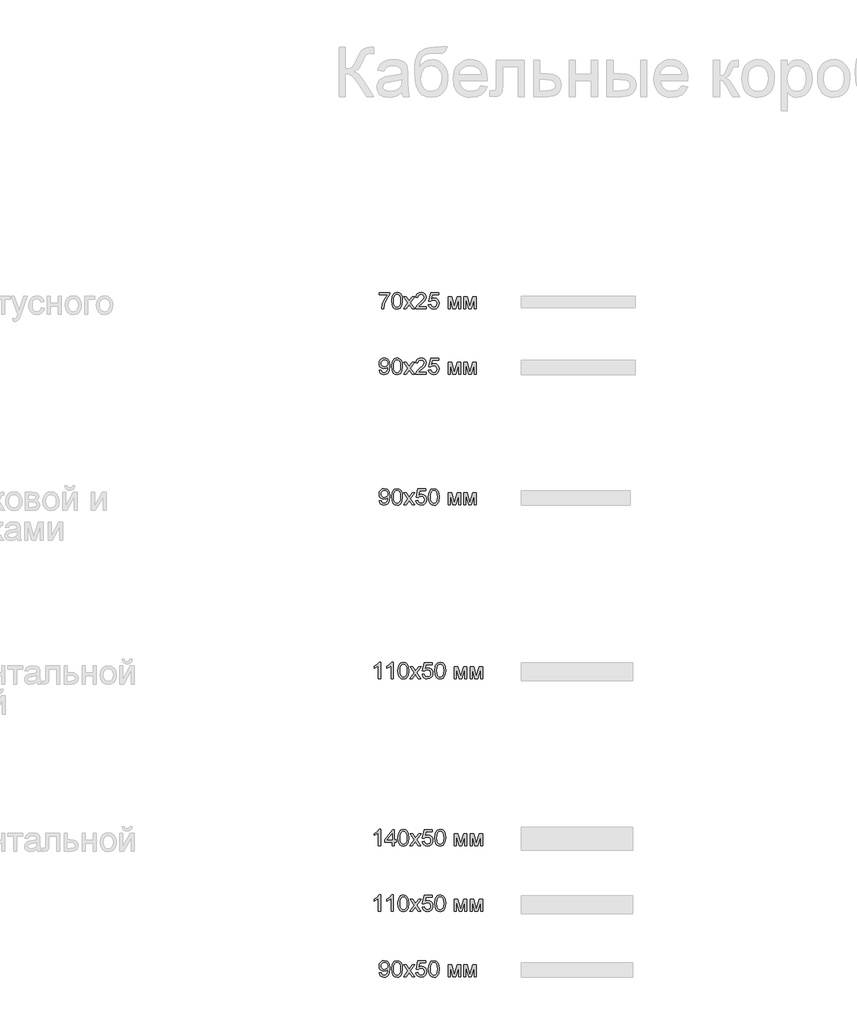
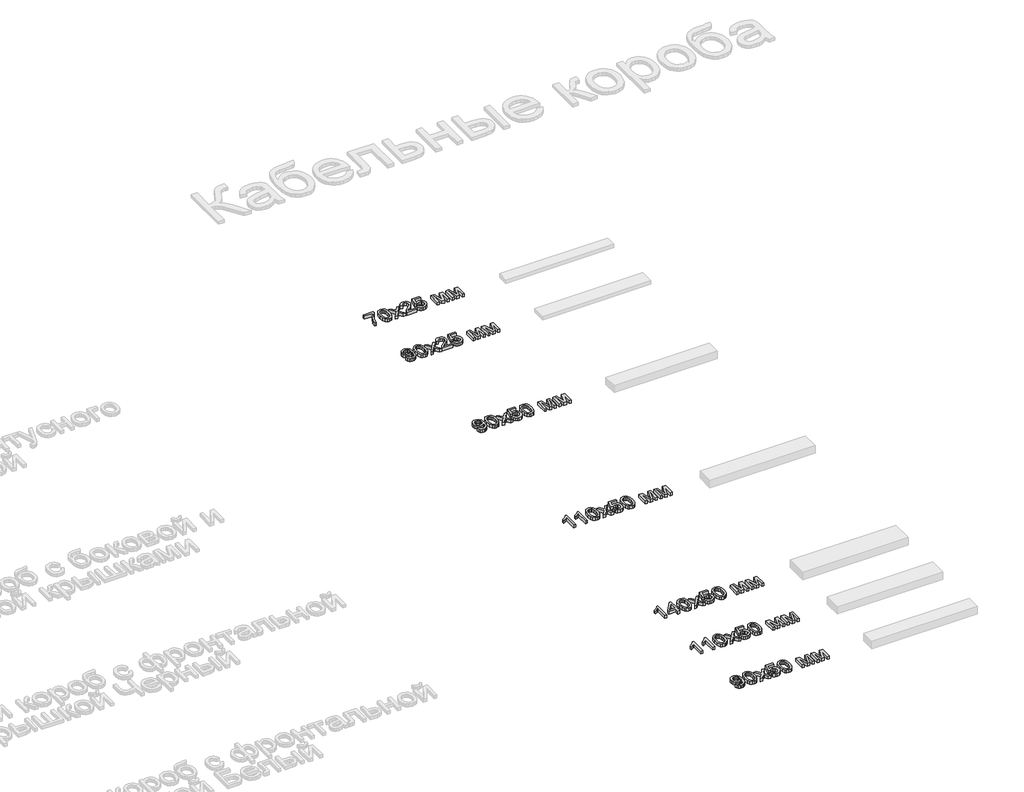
# One storey, part 30 of 48: 7 proxies.
"""IFC4 building model written with IfcOpenShell, lengths in millimetres."""

from ifc_helpers import new_model, si_unit, origin, origin_with_axes, place, context, project, spatial, polyline, outline, extrude, element, save

model = new_model("IFC4")

# Units and contexts
model_context = context("Model", 3, world=origin())
ifc_project = project(units=[si_unit("LENGTHUNIT", "METRE", prefix="MILLI")], contexts=[model_context])

# Site, building, storey
site = spatial("IfcSite", under=ifc_project)
building = spatial("IfcBuilding", under=site)
storey = spatial("IfcBuildingStorey", under=building, Name="Этаж 01", Elevation=0.0)

# Proxies
placement = place(None, origin())
element("IfcBuildingElementProxy", 1, Name="100 мм Arial", ObjectType="100 мм Arial", at=placement, inside=storey, context=model_context, shape_type="SweptSolid", body=[
    extrude(outline(polyline([(138.2334979, 4689.6161163), (138.2334979, 4702.1731551), (204.1579515, 4702.1731551), (204.1579515, 4692.019612), (185.4572834, 4665.0048109), (171.1466738, 4630.5833188), (166.4868352, 4603.2864748), (153.9297964, 4603.2864748), (158.9207288, 4631.6133884), (172.6182017, 4663.6313847), (191.6009127, 4689.6161163), (138.2334979, 4689.6161163)])), origin_with_axes(), (0.0, 0.0, 1.0), 20.0),
    extrude(outline(polyline([(215.1453604, 4652.7052895), (218.8364431, 4681.6085516), (229.7993265, 4698.2736059), (248.1075871, 4703.7427849), (262.773816, 4700.5054234), (272.9028336, 4691.1734834), (278.7889455, 4676.3110508), (281.0698139, 4652.7052895), (277.4155194, 4623.9246547), (266.4894242, 4607.2228121), (258.2580645, 4603.0933367), (248.1075871, 4601.7168449), (235.0600391, 4604.1080779), (225.1517506, 4611.2817768), (217.6469579, 4628.2717936), (215.1453604, 4652.7052895)]), holes=[polyline([(227.7023991, 4652.7298149), (229.1739271, 4632.9776175), (233.5885111, 4621.5456845), (240.1613361, 4616.0918339), (248.1075871, 4614.2738837), (256.0538382, 4616.0979653), (262.6266632, 4621.57021), (267.0412472, 4633.0082743), (268.5127751, 4652.7298149), (267.0902981, 4672.0374883), (262.822867, 4683.5583261), (256.2623047, 4689.2788912), (247.9604343, 4691.1857462), (240.1000224, 4689.5057517), (233.7847148, 4684.4657684), (229.2229781, 4672.2275607), (227.7023991, 4652.7298149)])]), origin_with_axes(), (0.0, 0.0, 1.0), 20.0),
    extrude(outline(polyline([(287.3483333, 4603.2864748), (314.1791935, 4640.3689799), (288.9179631, 4677.0590776), (304.0256504, 4677.0590776), (316.2148072, 4659.4007418), (321.9047154, 4651.0620832), (326.8343341, 4657.8801629), (340.7157481, 4677.0590776), (355.8234353, 4677.0590776), (329.2868807, 4640.3689799), (354.8424167, 4603.2864748), (339.7347294, 4603.2864748), (324.357262, 4625.5801237), (321.5368334, 4629.6513511), (302.4560206, 4603.2864748), (287.3483333, 4603.2864748)])), origin_with_axes(), (0.0, 0.0, 1.0), 20.0),
    extrude(outline(polyline([(427.0453896, 4615.8435136), (427.0453896, 4603.2864748), (361.1209361, 4603.2864748), (362.4698367, 4611.9439644), (370.0972567, 4625.2735554), (385.8180807, 4639.8294196), (407.4985929, 4660.7496424), (412.918721, 4674.9744129), (407.8051613, 4686.4891194), (394.4510448, 4691.1857462), (380.5328427, 4686.599484), (375.2476047, 4673.9198179), (362.6905659, 4675.4894477), (365.7347894, 4687.6356849), (372.3168115, 4696.5077724), (382.0932755, 4701.9340318), (394.720825, 4703.7427849), (407.4403449, 4701.7316967), (417.1984149, 4695.698432), (423.4064235, 4686.6853231), (425.4757598, 4675.7347024), (423.2439423, 4663.8275885), (415.8249887, 4651.5158044), (397.8355592, 4634.3111897), (383.3900595, 4622.2323975), (377.7246768, 4615.8435136), (427.0453896, 4615.8435136)])), origin_with_axes(), (0.0, 0.0, 1.0), 20.0),
    extrude(outline(polyline([(439.6024284, 4629.9701822), (452.1594671, 4631.539812), (458.4870375, 4618.6026285), (471.608162, 4614.2738837), (480.6090081, 4615.7791342), (487.3535113, 4620.2948857), (491.5657602, 4627.299972), (492.9698431, 4636.273227), (487.7091306, 4651.1847106), (481.1025831, 4655.2865948), (471.8043657, 4656.6538896), (460.7801686, 4654.4711231), (453.729097, 4648.8057403), (441.1720582, 4650.3753702), (452.1594671, 4702.1731551), (500.8179924, 4702.1731551), (500.8179924, 4689.6161163), (462.3130102, 4689.6161163), (456.9419331, 4661.9513903), (465.9121224, 4667.3960438), (475.3115074, 4669.2109283), (487.0438773, 4666.9607168), (496.7835532, 4660.2100822), (503.3410497, 4649.9216491), (505.5268819, 4637.058042), (503.5587132, 4624.5010032), (497.6542072, 4613.7588489), (486.3479672, 4604.7273459), (471.559111, 4601.7168449), (459.2258671, 4603.6512911), (449.4003522, 4609.4546296), (442.665046, 4618.45241), (439.6024284, 4629.9701822)])), origin_with_axes(), (0.0, 0.0, 1.0), 20.0),
    extrude(outline(polyline([(558.8942967, 4677.0590776), (580.5012325, 4677.0590776), (597.1540242, 4618.0017546), (615.1066655, 4677.0590776), (635.8061591, 4677.0590776), (635.8061591, 4603.2864748), (623.2491204, 4603.2864748), (623.2491204, 4662.6871543), (605.1983771, 4603.2864748), (588.7172637, 4603.2864748), (571.4513354, 4665.5321084), (571.4513354, 4603.2864748), (558.8942967, 4603.2864748), (558.8942967, 4677.0590776)])), origin_with_axes(), (0.0, 0.0, 1.0), 20.0),
    extrude(outline(polyline([(654.6417173, 4677.0590776), (676.2486531, 4677.0590776), (692.9014448, 4618.0017546), (710.8540861, 4677.0590776), (731.5535797, 4677.0590776), (731.5535797, 4603.2864748), (718.996541, 4603.2864748), (718.996541, 4662.6871543), (700.9457977, 4603.2864748), (684.4646844, 4603.2864748), (667.1987561, 4665.5321084), (667.1987561, 4603.2864748), (654.6417173, 4603.2864748), (654.6417173, 4677.0590776)])), origin_with_axes(), (0.0, 0.0, 1.0), 20.0),
])
element("IfcBuildingElementProxy", 2, Name="100 мм Arial", ObjectType="100 мм Arial", at=placement, inside=storey, context=model_context, shape_type="SweptSolid", body=[
    extrude(outline(polyline([(139.8031278, 4228.4005523), (152.3601665, 4229.9701822), (158.0010238, 4217.9894919), (168.6941271, 4214.2738837), (178.8599329, 4216.6651167), (185.751589, 4223.0540007), (189.8596046, 4233.9678332), (191.6744891, 4248.5359602), (191.6009127, 4250.9885068), (181.5577342, 4241.4726259), (167.7866849, 4237.8183314), (156.3363578, 4240.0501488), (146.8051484, 4246.7456012), (140.3764105, 4257.0892166), (138.2334979, 4270.2655234), (140.4806438, 4283.8771572), (147.2220813, 4294.5457351), (157.3480333, 4301.4435225), (169.7487222, 4303.7427849), (187.6400499, 4298.4943351), (199.951834, 4283.5338007), (204.1579515, 4255.4276162), (199.9640967, 4224.9301988), (194.7493694, 4214.939137), (187.4928971, 4207.6520078), (178.5073793, 4203.2006357), (168.1055159, 4201.7168449), (157.369493, 4203.4673501), (148.8039739, 4208.7188656), (142.8136288, 4217.1402976), (139.8031278, 4228.4005523)]), holes=[polyline([(191.6009127, 4270.559829), (190.2458807, 4279.0701658), (186.1807846, 4285.6184653), (179.8716084, 4289.793926), (171.7843359, 4291.1857462), (163.3966264, 4289.686627), (156.6766486, 4285.1892697), (152.2620647, 4278.3068107), (150.7905367, 4269.6523867), (152.1823569, 4261.8931423), (156.3578176, 4255.7341846), (162.9122484, 4251.7150738), (171.4409794, 4250.3753702), (185.9232672, 4255.7341846), (190.1815013, 4262.1200029), (191.6009127, 4270.559829)])]), origin_with_axes(), (0.0, 0.0, 1.0), 20.0),
    extrude(outline(polyline([(215.1453604, 4252.7052895), (218.8364431, 4281.6085516), (229.7993265, 4298.2736059), (248.1075871, 4303.7427849), (262.773816, 4300.5054234), (272.9028336, 4291.1734834), (278.7889455, 4276.3110508), (281.0698139, 4252.7052895), (277.4155194, 4223.9246547), (266.4894242, 4207.2228121), (258.2580645, 4203.0933367), (248.1075871, 4201.7168449), (235.0600391, 4204.1080779), (225.1517506, 4211.2817768), (217.6469579, 4228.2717936), (215.1453604, 4252.7052895)]), holes=[polyline([(227.7023991, 4252.7298149), (229.1739271, 4232.9776175), (233.5885111, 4221.5456845), (240.1613361, 4216.0918339), (248.1075871, 4214.2738837), (256.0538382, 4216.0979653), (262.6266632, 4221.57021), (267.0412472, 4233.0082743), (268.5127751, 4252.7298149), (267.0902981, 4272.0374883), (262.822867, 4283.5583261), (256.2623047, 4289.2788912), (247.9604343, 4291.1857462), (240.1000224, 4289.5057517), (233.7847148, 4284.4657684), (229.2229781, 4272.2275607), (227.7023991, 4252.7298149)])]), origin_with_axes(), (0.0, 0.0, 1.0), 20.0),
    extrude(outline(polyline([(287.3483333, 4203.2864748), (314.1791935, 4240.3689799), (288.9179631, 4277.0590776), (304.0256504, 4277.0590776), (316.2148072, 4259.4007418), (321.9047154, 4251.0620832), (326.8343341, 4257.8801629), (340.7157481, 4277.0590776), (355.8234353, 4277.0590776), (329.2868807, 4240.3689799), (354.8424167, 4203.2864748), (339.7347294, 4203.2864748), (324.357262, 4225.5801237), (321.5368334, 4229.6513511), (302.4560206, 4203.2864748), (287.3483333, 4203.2864748)])), origin_with_axes(), (0.0, 0.0, 1.0), 20.0),
    extrude(outline(polyline([(427.0453896, 4215.8435136), (427.0453896, 4203.2864748), (361.1209361, 4203.2864748), (362.4698367, 4211.9439644), (370.0972567, 4225.2735554), (385.8180807, 4239.8294196), (407.4985929, 4260.7496424), (412.918721, 4274.9744129), (407.8051613, 4286.4891194), (394.4510448, 4291.1857462), (380.5328427, 4286.599484), (375.2476047, 4273.9198179), (362.6905659, 4275.4894477), (365.7347894, 4287.6356849), (372.3168115, 4296.5077724), (382.0932755, 4301.9340318), (394.720825, 4303.7427849), (407.4403449, 4301.7316967), (417.1984149, 4295.698432), (423.4064235, 4286.6853231), (425.4757598, 4275.7347024), (423.2439423, 4263.8275885), (415.8249887, 4251.5158044), (397.8355592, 4234.3111897), (383.3900595, 4222.2323975), (377.7246768, 4215.8435136), (427.0453896, 4215.8435136)])), origin_with_axes(), (0.0, 0.0, 1.0), 20.0),
    extrude(outline(polyline([(439.6024284, 4229.9701822), (452.1594671, 4231.539812), (458.4870375, 4218.6026285), (471.608162, 4214.2738837), (480.6090081, 4215.7791342), (487.3535113, 4220.2948857), (491.5657602, 4227.299972), (492.9698431, 4236.273227), (487.7091306, 4251.1847106), (481.1025831, 4255.2865948), (471.8043657, 4256.6538896), (460.7801686, 4254.4711231), (453.729097, 4248.8057403), (441.1720582, 4250.3753702), (452.1594671, 4302.1731551), (500.8179924, 4302.1731551), (500.8179924, 4289.6161163), (462.3130102, 4289.6161163), (456.9419331, 4261.9513903), (465.9121224, 4267.3960438), (475.3115074, 4269.2109283), (487.0438773, 4266.9607168), (496.7835532, 4260.2100822), (503.3410497, 4249.9216491), (505.5268819, 4237.058042), (503.5587132, 4224.5010032), (497.6542072, 4213.7588489), (486.3479672, 4204.7273459), (471.559111, 4201.7168449), (459.2258671, 4203.6512911), (449.4003522, 4209.4546296), (442.665046, 4218.45241), (439.6024284, 4229.9701822)])), origin_with_axes(), (0.0, 0.0, 1.0), 20.0),
    extrude(outline(polyline([(558.8942967, 4277.0590776), (580.5012325, 4277.0590776), (597.1540242, 4218.0017546), (615.1066655, 4277.0590776), (635.8061591, 4277.0590776), (635.8061591, 4203.2864748), (623.2491204, 4203.2864748), (623.2491204, 4262.6871543), (605.1983771, 4203.2864748), (588.7172637, 4203.2864748), (571.4513354, 4265.5321084), (571.4513354, 4203.2864748), (558.8942967, 4203.2864748), (558.8942967, 4277.0590776)])), origin_with_axes(), (0.0, 0.0, 1.0), 20.0),
    extrude(outline(polyline([(654.6417173, 4277.0590776), (676.2486531, 4277.0590776), (692.9014448, 4218.0017546), (710.8540861, 4277.0590776), (731.5535797, 4277.0590776), (731.5535797, 4203.2864748), (718.996541, 4203.2864748), (718.996541, 4262.6871543), (700.9457977, 4203.2864748), (684.4646844, 4203.2864748), (667.1987561, 4265.5321084), (667.1987561, 4203.2864748), (654.6417173, 4203.2864748), (654.6417173, 4277.0590776)])), origin_with_axes(), (0.0, 0.0, 1.0), 20.0),
])
element("IfcBuildingElementProxy", 3, Name="100 мм Arial", ObjectType="100 мм Arial", at=placement, inside=storey, context=model_context, shape_type="SweptSolid", body=[
    extrude(outline(polyline([(139.8031278, 3431.851501), (152.3601665, 3433.4211308), (158.0010238, 3421.4404405), (168.6941271, 3417.7248324), (178.8599329, 3420.1160654), (185.751589, 3426.5049493), (189.8596046, 3437.4187819), (191.6744891, 3451.9869089), (191.6009127, 3454.4394555), (181.5577342, 3444.9235746), (167.7866849, 3441.2692801), (156.3363578, 3443.5010975), (146.8051484, 3450.1965498), (140.3764105, 3460.5401653), (138.2334979, 3473.7164721), (140.4806438, 3487.3281059), (147.2220813, 3497.9966837), (157.3480333, 3504.8944711), (169.7487222, 3507.1937336), (187.6400499, 3501.9452838), (199.951834, 3486.9847493), (204.1579515, 3458.8785649), (199.9640967, 3428.3811475), (194.7493694, 3418.3900857), (187.4928971, 3411.1029565), (178.5073793, 3406.6515843), (168.1055159, 3405.1677936), (157.369493, 3406.9182988), (148.8039739, 3412.1698143), (142.8136288, 3420.5912463), (139.8031278, 3431.851501)]), holes=[polyline([(191.6009127, 3474.0107776), (190.2458807, 3482.5211145), (186.1807846, 3489.069414), (179.8716084, 3493.2448746), (171.7843359, 3494.6366948), (163.3966264, 3493.1375757), (156.6766486, 3488.6402183), (152.2620647, 3481.7577593), (150.7905367, 3473.1033354), (152.1823569, 3465.344091), (156.3578176, 3459.1851332), (162.9122484, 3455.1660224), (171.4409794, 3453.8263188), (185.9232672, 3459.1851332), (190.1815013, 3465.5709515), (191.6009127, 3474.0107776)])]), origin_with_axes(), (0.0, 0.0, 1.0), 20.0),
    extrude(outline(polyline([(215.1453604, 3456.1562381), (218.8364431, 3485.0595002), (229.7993265, 3501.7245546), (248.1075871, 3507.1937336), (262.773816, 3503.9563721), (272.9028336, 3494.6244321), (278.7889455, 3479.7619995), (281.0698139, 3456.1562381), (277.4155194, 3427.3756034), (266.4894242, 3410.6737608), (258.2580645, 3406.5442854), (248.1075871, 3405.1677936), (235.0600391, 3407.5590266), (225.1517506, 3414.7327255), (217.6469579, 3431.7227423), (215.1453604, 3456.1562381)]), holes=[polyline([(227.7023991, 3456.1807636), (229.1739271, 3436.4285662), (233.5885111, 3424.9966332), (240.1613361, 3419.5427826), (248.1075871, 3417.7248324), (256.0538382, 3419.5489139), (262.6266632, 3425.0211586), (267.0412472, 3436.459223), (268.5127751, 3456.1807636), (267.0902981, 3475.488437), (262.822867, 3487.0092748), (256.2623047, 3492.7298398), (247.9604343, 3494.6366948), (240.1000224, 3492.9567004), (233.7847148, 3487.9167171), (229.2229781, 3475.6785094), (227.7023991, 3456.1807636)])]), origin_with_axes(), (0.0, 0.0, 1.0), 20.0),
    extrude(outline(polyline([(287.3483333, 3406.7374235), (314.1791935, 3443.8199286), (288.9179631, 3480.5100262), (304.0256504, 3480.5100262), (316.2148072, 3462.8516905), (321.9047154, 3454.5130319), (326.8343341, 3461.3311115), (340.7157481, 3480.5100262), (355.8234353, 3480.5100262), (329.2868807, 3443.8199286), (354.8424167, 3406.7374235), (339.7347294, 3406.7374235), (324.357262, 3429.0310724), (321.5368334, 3433.1022998), (302.4560206, 3406.7374235), (287.3483333, 3406.7374235)])), origin_with_axes(), (0.0, 0.0, 1.0), 20.0),
    extrude(outline(polyline([(362.6905659, 3433.4211308), (375.2476047, 3434.9907607), (381.575175, 3422.0535772), (394.6962995, 3417.7248324), (403.6971456, 3419.2300829), (410.4416489, 3423.7458344), (414.6538977, 3430.7509207), (416.0579807, 3439.7241757), (410.7972681, 3454.6356592), (404.1907207, 3458.7375435), (394.8925032, 3460.1048382), (383.8683061, 3457.9220717), (376.8172345, 3452.256689), (364.2601958, 3453.8263188), (375.2476047, 3505.6241038), (423.9061299, 3505.6241038), (423.9061299, 3493.067065), (385.4011477, 3493.067065), (380.0300706, 3465.402339), (389.0002599, 3470.8469925), (398.3996449, 3472.661877), (410.1320149, 3470.4116655), (419.8716907, 3463.6610308), (426.4291873, 3453.3725977), (428.6150194, 3440.5089906), (426.6468508, 3427.9519519), (420.7423448, 3417.2097976), (409.4361048, 3408.1782946), (394.6472486, 3405.1677936), (382.3140047, 3407.1022398), (372.4884897, 3412.9055782), (365.7531835, 3421.9033587), (362.6905659, 3433.4211308)])), origin_with_axes(), (0.0, 0.0, 1.0), 20.0),
    extrude(outline(polyline([(439.6024284, 3456.1562381), (443.2935111, 3485.0595002), (454.2563945, 3501.7245546), (472.5646551, 3507.1937336), (487.230884, 3503.9563721), (497.3599016, 3494.6244321), (503.2460135, 3479.7619995), (505.5268819, 3456.1562381), (501.8725874, 3427.3756034), (490.9464922, 3410.6737608), (482.7151325, 3406.5442854), (472.5646551, 3405.1677936), (459.517107, 3407.5590266), (449.6088186, 3414.7327255), (442.1040259, 3431.7227423), (439.6024284, 3456.1562381)]), holes=[polyline([(452.1594671, 3456.1807636), (453.6309951, 3436.4285662), (458.0455791, 3424.9966332), (464.618404, 3419.5427826), (472.5646551, 3417.7248324), (480.5109062, 3419.5489139), (487.0837312, 3425.0211586), (491.4983152, 3436.459223), (492.9698431, 3456.1807636), (491.5473661, 3475.488437), (487.2799349, 3487.0092748), (480.7193727, 3492.7298398), (472.4175023, 3494.6366948), (464.5570904, 3492.9567004), (458.2417828, 3487.9167171), (453.6800461, 3475.6785094), (452.1594671, 3456.1807636)])]), origin_with_axes(), (0.0, 0.0, 1.0), 20.0),
    extrude(outline(polyline([(558.8942967, 3480.5100262), (580.5012325, 3480.5100262), (597.1540242, 3421.4527033), (615.1066655, 3480.5100262), (635.8061591, 3480.5100262), (635.8061591, 3406.7374235), (623.2491204, 3406.7374235), (623.2491204, 3466.1381029), (605.1983771, 3406.7374235), (588.7172637, 3406.7374235), (571.4513354, 3468.983057), (571.4513354, 3406.7374235), (558.8942967, 3406.7374235), (558.8942967, 3480.5100262)])), origin_with_axes(), (0.0, 0.0, 1.0), 20.0),
    extrude(outline(polyline([(654.6417173, 3480.5100262), (676.2486531, 3480.5100262), (692.9014448, 3421.4527033), (710.8540861, 3480.5100262), (731.5535797, 3480.5100262), (731.5535797, 3406.7374235), (718.996541, 3406.7374235), (718.996541, 3466.1381029), (700.9457977, 3406.7374235), (684.4646844, 3406.7374235), (667.1987561, 3468.983057), (667.1987561, 3406.7374235), (654.6417173, 3406.7374235), (654.6417173, 3480.5100262)])), origin_with_axes(), (0.0, 0.0, 1.0), 20.0),
])
element("IfcBuildingElementProxy", 4, Name="100 мм Arial", ObjectType="100 мм Arial", at=placement, inside=storey, context=model_context, shape_type="SweptSolid", body=[
    extrude(outline(polyline([(146.8664621, 2346.7374235), (134.3094233, 2346.7374235), (134.3094233, 2425.022712), (122.4145721, 2416.5491634), (109.1953458, 2410.2093304), (109.1953458, 2422.0796561), (127.6017083, 2433.8273545), (138.7730582, 2447.1937336), (146.8664621, 2447.1937336), (146.8664621, 2346.7374235)])), origin_with_axes(), (0.0, 0.0, 1.0), 20.0),
    extrude(outline(polyline([(223.7783245, 2346.7374235), (211.2212858, 2346.7374235), (211.2212858, 2425.022712), (199.3264346, 2416.5491634), (186.1072082, 2410.2093304), (186.1072082, 2422.0796561), (204.5135707, 2433.8273545), (215.6849206, 2447.1937336), (223.7783245, 2447.1937336), (223.7783245, 2346.7374235)])), origin_with_axes(), (0.0, 0.0, 1.0), 20.0),
    extrude(outline(polyline([(253.6012916, 2396.1562381), (257.2923743, 2425.0595002), (268.2552577, 2441.7245546), (286.5635184, 2447.1937336), (301.2297473, 2443.9563721), (311.3587649, 2434.6244321), (317.2448768, 2419.7619995), (319.5257451, 2396.1562381), (315.8714507, 2367.3756034), (304.9453554, 2350.6737608), (296.7139958, 2346.5442854), (286.5635184, 2345.1677936), (273.5159703, 2347.5590266), (263.6076819, 2354.7327255), (256.1028892, 2371.7227423), (253.6012916, 2396.1562381)]), holes=[polyline([(266.1583304, 2396.1807636), (267.6298584, 2376.4285662), (272.0444423, 2364.9966332), (278.6172673, 2359.5427826), (286.5635184, 2357.7248324), (294.5097695, 2359.5489139), (301.0825945, 2365.0211586), (305.4971784, 2376.459223), (306.9687064, 2396.1807636), (305.5462293, 2415.488437), (301.2787982, 2427.0092748), (294.7182359, 2432.7298398), (286.4163656, 2434.6366948), (278.5559536, 2432.9567004), (272.240646, 2427.9167171), (267.6789093, 2415.6785094), (266.1583304, 2396.1807636)])]), origin_with_axes(), (0.0, 0.0, 1.0), 20.0),
    extrude(outline(polyline([(325.8042645, 2346.7374235), (352.6351247, 2383.8199286), (327.3738944, 2420.5100262), (342.4815816, 2420.5100262), (354.6707384, 2402.8516905), (360.3606466, 2394.5130319), (365.2902653, 2401.3311115), (379.1716793, 2420.5100262), (394.2793666, 2420.5100262), (367.742812, 2383.8199286), (393.2983479, 2346.7374235), (378.1906606, 2346.7374235), (362.8131932, 2369.0310724), (359.9927646, 2373.1022998), (340.9119518, 2346.7374235), (325.8042645, 2346.7374235)])), origin_with_axes(), (0.0, 0.0, 1.0), 20.0),
    extrude(outline(polyline([(401.1464971, 2373.4211308), (413.7035359, 2374.9907607), (420.0311062, 2362.0535772), (433.1522307, 2357.7248324), (442.1530769, 2359.2300829), (448.8975801, 2363.7458344), (453.109829, 2370.7509207), (454.5139119, 2379.7241757), (449.2531994, 2394.6356592), (442.6466519, 2398.7375435), (433.3484345, 2400.1048382), (422.3242373, 2397.9220717), (415.2731658, 2392.256689), (402.716127, 2393.8263188), (413.7035359, 2445.6241038), (462.3620611, 2445.6241038), (462.3620611, 2433.067065), (423.857079, 2433.067065), (418.4860018, 2405.402339), (427.4561912, 2410.8469925), (436.8555761, 2412.661877), (448.5879461, 2410.4116655), (458.3276219, 2403.6610308), (464.8851185, 2393.3725977), (467.0709507, 2380.5089906), (465.102782, 2367.9519519), (459.198276, 2357.2097976), (447.892036, 2348.1782946), (433.1031798, 2345.1677936), (420.7699359, 2347.1022398), (410.9444209, 2352.9055782), (404.2091148, 2361.9033587), (401.1464971, 2373.4211308)])), origin_with_axes(), (0.0, 0.0, 1.0), 20.0),
    extrude(outline(polyline([(478.0583596, 2396.1562381), (481.7494423, 2425.0595002), (492.7123257, 2441.7245546), (511.0205864, 2447.1937336), (525.6868152, 2443.9563721), (535.8158328, 2434.6244321), (541.7019448, 2419.7619995), (543.9828131, 2396.1562381), (540.3285186, 2367.3756034), (529.4024234, 2350.6737608), (521.1710638, 2346.5442854), (511.0205864, 2345.1677936), (497.9730383, 2347.5590266), (488.0647499, 2354.7327255), (480.5599572, 2371.7227423), (478.0583596, 2396.1562381)]), holes=[polyline([(490.6153984, 2396.1807636), (492.0869263, 2376.4285662), (496.5015103, 2364.9966332), (503.0743353, 2359.5427826), (511.0205864, 2357.7248324), (518.9668375, 2359.5489139), (525.5396624, 2365.0211586), (529.9542464, 2376.459223), (531.4257744, 2396.1807636), (530.0032973, 2415.488437), (525.7358662, 2427.0092748), (519.1753039, 2432.7298398), (510.8734336, 2434.6366948), (503.0130216, 2432.9567004), (496.697714, 2427.9167171), (492.1359773, 2415.6785094), (490.6153984, 2396.1807636)])]), origin_with_axes(), (0.0, 0.0, 1.0), 20.0),
    extrude(outline(polyline([(597.3502279, 2420.5100262), (618.9571638, 2420.5100262), (635.6099554, 2361.4527033), (653.5625968, 2420.5100262), (674.2620904, 2420.5100262), (674.2620904, 2346.7374235), (661.7050516, 2346.7374235), (661.7050516, 2406.1381029), (643.6543084, 2346.7374235), (627.173195, 2346.7374235), (609.9072667, 2408.983057), (609.9072667, 2346.7374235), (597.3502279, 2346.7374235), (597.3502279, 2420.5100262)])), origin_with_axes(), (0.0, 0.0, 1.0), 20.0),
    extrude(outline(polyline([(693.0976485, 2420.5100262), (714.7045844, 2420.5100262), (731.357376, 2361.4527033), (749.3100174, 2420.5100262), (770.009511, 2420.5100262), (770.009511, 2346.7374235), (757.4524722, 2346.7374235), (757.4524722, 2406.1381029), (739.401729, 2346.7374235), (722.9206156, 2346.7374235), (705.6546873, 2408.983057), (705.6546873, 2346.7374235), (693.0976485, 2346.7374235), (693.0976485, 2420.5100262)])), origin_with_axes(), (0.0, 0.0, 1.0), 20.0),
])
element("IfcBuildingElementProxy", 5, Name="100 мм Arial", ObjectType="100 мм Arial", at=placement, inside=storey, context=model_context, shape_type="SweptSolid", body=[
    extrude(outline(polyline([(146.8664621, 1326.7374235), (134.3094233, 1326.7374235), (134.3094233, 1405.022712), (122.4145721, 1396.5491634), (109.1953458, 1390.2093304), (109.1953458, 1402.0796561), (127.6017083, 1413.8273545), (138.7730582, 1427.1937336), (146.8664621, 1427.1937336), (146.8664621, 1326.7374235)])), origin_with_axes(), (0.0, 0.0, 1.0), 20.0),
    extrude(outline(polyline([(217.4998051, 1326.7374235), (217.4998051, 1350.2818712), (171.9805396, 1350.2818712), (171.9805396, 1362.8389099), (220.6390648, 1425.6241038), (230.0568439, 1425.6241038), (230.0568439, 1362.8389099), (242.6138827, 1362.8389099), (242.6138827, 1350.2818712), (230.0568439, 1350.2818712), (230.0568439, 1326.7374235), (217.4998051, 1326.7374235)]), holes=[polyline([(217.4998051, 1362.8389099), (217.4998051, 1401.6381977), (187.4315834, 1362.8389099), (217.4998051, 1362.8389099)])]), origin_with_axes(), (0.0, 0.0, 1.0), 20.0),
    extrude(outline(polyline([(253.6012916, 1376.1562381), (257.2923743, 1405.0595002), (268.2552577, 1421.7245546), (286.5635184, 1427.1937336), (301.2297473, 1423.9563721), (311.3587649, 1414.6244321), (317.2448768, 1399.7619995), (319.5257451, 1376.1562381), (315.8714507, 1347.3756034), (304.9453554, 1330.6737608), (296.7139958, 1326.5442854), (286.5635184, 1325.1677936), (273.5159703, 1327.5590266), (263.6076819, 1334.7327255), (256.1028892, 1351.7227423), (253.6012916, 1376.1562381)]), holes=[polyline([(266.1583304, 1376.1807636), (267.6298584, 1356.4285662), (272.0444423, 1344.9966332), (278.6172673, 1339.5427826), (286.5635184, 1337.7248324), (294.5097695, 1339.5489139), (301.0825945, 1345.0211586), (305.4971784, 1356.459223), (306.9687064, 1376.1807636), (305.5462293, 1395.488437), (301.2787982, 1407.0092748), (294.7182359, 1412.7298398), (286.4163656, 1414.6366948), (278.5559536, 1412.9567004), (272.240646, 1407.9167171), (267.6789093, 1395.6785094), (266.1583304, 1376.1807636)])]), origin_with_axes(), (0.0, 0.0, 1.0), 20.0),
    extrude(outline(polyline([(325.8042645, 1326.7374235), (352.6351247, 1363.8199286), (327.3738944, 1400.5100262), (342.4815816, 1400.5100262), (354.6707384, 1382.8516905), (360.3606466, 1374.5130319), (365.2902653, 1381.3311115), (379.1716793, 1400.5100262), (394.2793666, 1400.5100262), (367.742812, 1363.8199286), (393.2983479, 1326.7374235), (378.1906606, 1326.7374235), (362.8131932, 1349.0310724), (359.9927646, 1353.1022998), (340.9119518, 1326.7374235), (325.8042645, 1326.7374235)])), origin_with_axes(), (0.0, 0.0, 1.0), 20.0),
    extrude(outline(polyline([(401.1464971, 1353.4211308), (413.7035359, 1354.9907607), (420.0311062, 1342.0535772), (433.1522307, 1337.7248324), (442.1530769, 1339.2300829), (448.8975801, 1343.7458344), (453.109829, 1350.7509207), (454.5139119, 1359.7241757), (449.2531994, 1374.6356592), (442.6466519, 1378.7375435), (433.3484345, 1380.1048382), (422.3242373, 1377.9220717), (415.2731658, 1372.256689), (402.716127, 1373.8263188), (413.7035359, 1425.6241038), (462.3620611, 1425.6241038), (462.3620611, 1413.067065), (423.857079, 1413.067065), (418.4860018, 1385.402339), (427.4561912, 1390.8469925), (436.8555761, 1392.661877), (448.5879461, 1390.4116655), (458.3276219, 1383.6610308), (464.8851185, 1373.3725977), (467.0709507, 1360.5089906), (465.102782, 1347.9519519), (459.198276, 1337.2097976), (447.892036, 1328.1782946), (433.1031798, 1325.1677936), (420.7699359, 1327.1022398), (410.9444209, 1332.9055782), (404.2091148, 1341.9033587), (401.1464971, 1353.4211308)])), origin_with_axes(), (0.0, 0.0, 1.0), 20.0),
    extrude(outline(polyline([(478.0583596, 1376.1562381), (481.7494423, 1405.0595002), (492.7123257, 1421.7245546), (511.0205864, 1427.1937336), (525.6868152, 1423.9563721), (535.8158328, 1414.6244321), (541.7019448, 1399.7619995), (543.9828131, 1376.1562381), (540.3285186, 1347.3756034), (529.4024234, 1330.6737608), (521.1710638, 1326.5442854), (511.0205864, 1325.1677936), (497.9730383, 1327.5590266), (488.0647499, 1334.7327255), (480.5599572, 1351.7227423), (478.0583596, 1376.1562381)]), holes=[polyline([(490.6153984, 1376.1807636), (492.0869263, 1356.4285662), (496.5015103, 1344.9966332), (503.0743353, 1339.5427826), (511.0205864, 1337.7248324), (518.9668375, 1339.5489139), (525.5396624, 1345.0211586), (529.9542464, 1356.459223), (531.4257744, 1376.1807636), (530.0032973, 1395.488437), (525.7358662, 1407.0092748), (519.1753039, 1412.7298398), (510.8734336, 1414.6366948), (503.0130216, 1412.9567004), (496.697714, 1407.9167171), (492.1359773, 1395.6785094), (490.6153984, 1376.1807636)])]), origin_with_axes(), (0.0, 0.0, 1.0), 20.0),
    extrude(outline(polyline([(597.3502279, 1400.5100262), (618.9571638, 1400.5100262), (635.6099554, 1341.4527033), (653.5625968, 1400.5100262), (674.2620904, 1400.5100262), (674.2620904, 1326.7374235), (661.7050516, 1326.7374235), (661.7050516, 1386.1381029), (643.6543084, 1326.7374235), (627.173195, 1326.7374235), (609.9072667, 1388.983057), (609.9072667, 1326.7374235), (597.3502279, 1326.7374235), (597.3502279, 1400.5100262)])), origin_with_axes(), (0.0, 0.0, 1.0), 20.0),
    extrude(outline(polyline([(693.0976485, 1400.5100262), (714.7045844, 1400.5100262), (731.357376, 1341.4527033), (749.3100174, 1400.5100262), (770.009511, 1400.5100262), (770.009511, 1326.7374235), (757.4524722, 1326.7374235), (757.4524722, 1386.1381029), (739.401729, 1326.7374235), (722.9206156, 1326.7374235), (705.6546873, 1388.983057), (705.6546873, 1326.7374235), (693.0976485, 1326.7374235), (693.0976485, 1400.5100262)])), origin_with_axes(), (0.0, 0.0, 1.0), 20.0),
])
element("IfcBuildingElementProxy", 6, Name="100 мм Arial", ObjectType="100 мм Arial", at=placement, inside=storey, context=model_context, shape_type="SweptSolid", body=[
    extrude(outline(polyline([(146.8664621, 926.7374235), (134.3094233, 926.7374235), (134.3094233, 1005.022712), (122.4145721, 996.5491634), (109.1953458, 990.2093304), (109.1953458, 1002.0796561), (127.6017083, 1013.8273545), (138.7730582, 1027.1937336), (146.8664621, 1027.1937336), (146.8664621, 926.7374235)])), origin_with_axes(), (0.0, 0.0, 1.0), 20.0),
    extrude(outline(polyline([(223.7783245, 926.7374235), (211.2212858, 926.7374235), (211.2212858, 1005.022712), (199.3264346, 996.5491634), (186.1072082, 990.2093304), (186.1072082, 1002.0796561), (204.5135707, 1013.8273545), (215.6849206, 1027.1937336), (223.7783245, 1027.1937336), (223.7783245, 926.7374235)])), origin_with_axes(), (0.0, 0.0, 1.0), 20.0),
    extrude(outline(polyline([(253.6012916, 976.1562381), (257.2923743, 1005.0595002), (268.2552577, 1021.7245546), (286.5635184, 1027.1937336), (301.2297473, 1023.9563721), (311.3587649, 1014.6244321), (317.2448768, 999.7619995), (319.5257451, 976.1562381), (315.8714507, 947.3756034), (304.9453554, 930.6737608), (296.7139958, 926.5442854), (286.5635184, 925.1677936), (273.5159703, 927.5590266), (263.6076819, 934.7327255), (256.1028892, 951.7227423), (253.6012916, 976.1562381)]), holes=[polyline([(266.1583304, 976.1807636), (267.6298584, 956.4285662), (272.0444423, 944.9966332), (278.6172673, 939.5427826), (286.5635184, 937.7248324), (294.5097695, 939.5489139), (301.0825945, 945.0211586), (305.4971784, 956.459223), (306.9687064, 976.1807636), (305.5462293, 995.488437), (301.2787982, 1007.0092748), (294.7182359, 1012.7298398), (286.4163656, 1014.6366948), (278.5559536, 1012.9567004), (272.240646, 1007.9167171), (267.6789093, 995.6785094), (266.1583304, 976.1807636)])]), origin_with_axes(), (0.0, 0.0, 1.0), 20.0),
    extrude(outline(polyline([(325.8042645, 926.7374235), (352.6351247, 963.8199286), (327.3738944, 1000.5100262), (342.4815816, 1000.5100262), (354.6707384, 982.8516905), (360.3606466, 974.5130319), (365.2902653, 981.3311115), (379.1716793, 1000.5100262), (394.2793666, 1000.5100262), (367.742812, 963.8199286), (393.2983479, 926.7374235), (378.1906606, 926.7374235), (362.8131932, 949.0310724), (359.9927646, 953.1022998), (340.9119518, 926.7374235), (325.8042645, 926.7374235)])), origin_with_axes(), (0.0, 0.0, 1.0), 20.0),
    extrude(outline(polyline([(401.1464971, 953.4211308), (413.7035359, 954.9907607), (420.0311062, 942.0535772), (433.1522307, 937.7248324), (442.1530769, 939.2300829), (448.8975801, 943.7458344), (453.109829, 950.7509207), (454.5139119, 959.7241757), (449.2531994, 974.6356592), (442.6466519, 978.7375435), (433.3484345, 980.1048382), (422.3242373, 977.9220717), (415.2731658, 972.256689), (402.716127, 973.8263188), (413.7035359, 1025.6241038), (462.3620611, 1025.6241038), (462.3620611, 1013.067065), (423.857079, 1013.067065), (418.4860018, 985.402339), (427.4561912, 990.8469925), (436.8555761, 992.661877), (448.5879461, 990.4116655), (458.3276219, 983.6610308), (464.8851185, 973.3725977), (467.0709507, 960.5089906), (465.102782, 947.9519519), (459.198276, 937.2097976), (447.892036, 928.1782946), (433.1031798, 925.1677936), (420.7699359, 927.1022398), (410.9444209, 932.9055782), (404.2091148, 941.9033587), (401.1464971, 953.4211308)])), origin_with_axes(), (0.0, 0.0, 1.0), 20.0),
    extrude(outline(polyline([(478.0583596, 976.1562381), (481.7494423, 1005.0595002), (492.7123257, 1021.7245546), (511.0205864, 1027.1937336), (525.6868152, 1023.9563721), (535.8158328, 1014.6244321), (541.7019448, 999.7619995), (543.9828131, 976.1562381), (540.3285186, 947.3756034), (529.4024234, 930.6737608), (521.1710638, 926.5442854), (511.0205864, 925.1677936), (497.9730383, 927.5590266), (488.0647499, 934.7327255), (480.5599572, 951.7227423), (478.0583596, 976.1562381)]), holes=[polyline([(490.6153984, 976.1807636), (492.0869263, 956.4285662), (496.5015103, 944.9966332), (503.0743353, 939.5427826), (511.0205864, 937.7248324), (518.9668375, 939.5489139), (525.5396624, 945.0211586), (529.9542464, 956.459223), (531.4257744, 976.1807636), (530.0032973, 995.488437), (525.7358662, 1007.0092748), (519.1753039, 1012.7298398), (510.8734336, 1014.6366948), (503.0130216, 1012.9567004), (496.697714, 1007.9167171), (492.1359773, 995.6785094), (490.6153984, 976.1807636)])]), origin_with_axes(), (0.0, 0.0, 1.0), 20.0),
    extrude(outline(polyline([(597.3502279, 1000.5100262), (618.9571638, 1000.5100262), (635.6099554, 941.4527033), (653.5625968, 1000.5100262), (674.2620904, 1000.5100262), (674.2620904, 926.7374235), (661.7050516, 926.7374235), (661.7050516, 986.1381029), (643.6543084, 926.7374235), (627.173195, 926.7374235), (609.9072667, 988.983057), (609.9072667, 926.7374235), (597.3502279, 926.7374235), (597.3502279, 1000.5100262)])), origin_with_axes(), (0.0, 0.0, 1.0), 20.0),
    extrude(outline(polyline([(693.0976485, 1000.5100262), (714.7045844, 1000.5100262), (731.357376, 941.4527033), (749.3100174, 1000.5100262), (770.009511, 1000.5100262), (770.009511, 926.7374235), (757.4524722, 926.7374235), (757.4524722, 986.1381029), (739.401729, 926.7374235), (722.9206156, 926.7374235), (705.6546873, 988.983057), (705.6546873, 926.7374235), (693.0976485, 926.7374235), (693.0976485, 1000.5100262)])), origin_with_axes(), (0.0, 0.0, 1.0), 20.0),
])
element("IfcBuildingElementProxy", 7, Name="100 мм Arial", ObjectType="100 мм Arial", at=placement, inside=storey, context=model_context, shape_type="SweptSolid", body=[
    extrude(outline(polyline([(139.8031278, 551.851501), (152.3601665, 553.4211308), (158.0010238, 541.4404405), (168.6941271, 537.7248324), (178.8599329, 540.1160654), (185.751589, 546.5049493), (189.8596046, 557.4187819), (191.6744891, 571.9869089), (191.6009127, 574.4394555), (181.5577342, 564.9235746), (167.7866849, 561.2692801), (156.3363578, 563.5010975), (146.8051484, 570.1965498), (140.3764105, 580.5401653), (138.2334979, 593.7164721), (140.4806438, 607.3281059), (147.2220813, 617.9966837), (157.3480333, 624.8944711), (169.7487222, 627.1937336), (187.6400499, 621.9452838), (199.951834, 606.9847493), (204.1579515, 578.8785649), (199.9640967, 548.3811475), (194.7493694, 538.3900857), (187.4928971, 531.1029565), (178.5073793, 526.6515843), (168.1055159, 525.1677936), (157.369493, 526.9182988), (148.8039739, 532.1698143), (142.8136288, 540.5912463), (139.8031278, 551.851501)]), holes=[polyline([(191.6009127, 594.0107776), (190.2458807, 602.5211145), (186.1807846, 609.069414), (179.8716084, 613.2448746), (171.7843359, 614.6366948), (163.3966264, 613.1375757), (156.6766486, 608.6402183), (152.2620647, 601.7577593), (150.7905367, 593.1033354), (152.1823569, 585.344091), (156.3578176, 579.1851332), (162.9122484, 575.1660224), (171.4409794, 573.8263188), (185.9232672, 579.1851332), (190.1815013, 585.5709515), (191.6009127, 594.0107776)])]), origin_with_axes(), (0.0, 0.0, 1.0), 20.0),
    extrude(outline(polyline([(215.1453604, 576.1562381), (218.8364431, 605.0595002), (229.7993265, 621.7245546), (248.1075871, 627.1937336), (262.773816, 623.9563721), (272.9028336, 614.6244321), (278.7889455, 599.7619995), (281.0698139, 576.1562381), (277.4155194, 547.3756034), (266.4894242, 530.6737608), (258.2580645, 526.5442854), (248.1075871, 525.1677936), (235.0600391, 527.5590266), (225.1517506, 534.7327255), (217.6469579, 551.7227423), (215.1453604, 576.1562381)]), holes=[polyline([(227.7023991, 576.1807636), (229.1739271, 556.4285662), (233.5885111, 544.9966332), (240.1613361, 539.5427826), (248.1075871, 537.7248324), (256.0538382, 539.5489139), (262.6266632, 545.0211586), (267.0412472, 556.459223), (268.5127751, 576.1807636), (267.0902981, 595.488437), (262.822867, 607.0092748), (256.2623047, 612.7298398), (247.9604343, 614.6366948), (240.1000224, 612.9567004), (233.7847148, 607.9167171), (229.2229781, 595.6785094), (227.7023991, 576.1807636)])]), origin_with_axes(), (0.0, 0.0, 1.0), 20.0),
    extrude(outline(polyline([(287.3483333, 526.7374235), (314.1791935, 563.8199286), (288.9179631, 600.5100262), (304.0256504, 600.5100262), (316.2148072, 582.8516905), (321.9047154, 574.5130319), (326.8343341, 581.3311115), (340.7157481, 600.5100262), (355.8234353, 600.5100262), (329.2868807, 563.8199286), (354.8424167, 526.7374235), (339.7347294, 526.7374235), (324.357262, 549.0310724), (321.5368334, 553.1022998), (302.4560206, 526.7374235), (287.3483333, 526.7374235)])), origin_with_axes(), (0.0, 0.0, 1.0), 20.0),
    extrude(outline(polyline([(362.6905659, 553.4211308), (375.2476047, 554.9907607), (381.575175, 542.0535772), (394.6962995, 537.7248324), (403.6971456, 539.2300829), (410.4416489, 543.7458344), (414.6538977, 550.7509207), (416.0579807, 559.7241757), (410.7972681, 574.6356592), (404.1907207, 578.7375435), (394.8925032, 580.1048382), (383.8683061, 577.9220717), (376.8172345, 572.256689), (364.2601958, 573.8263188), (375.2476047, 625.6241038), (423.9061299, 625.6241038), (423.9061299, 613.067065), (385.4011477, 613.067065), (380.0300706, 585.402339), (389.0002599, 590.8469925), (398.3996449, 592.661877), (410.1320149, 590.4116655), (419.8716907, 583.6610308), (426.4291873, 573.3725977), (428.6150194, 560.5089906), (426.6468508, 547.9519519), (420.7423448, 537.2097976), (409.4361048, 528.1782946), (394.6472486, 525.1677936), (382.3140047, 527.1022398), (372.4884897, 532.9055782), (365.7531835, 541.9033587), (362.6905659, 553.4211308)])), origin_with_axes(), (0.0, 0.0, 1.0), 20.0),
    extrude(outline(polyline([(439.6024284, 576.1562381), (443.2935111, 605.0595002), (454.2563945, 621.7245546), (472.5646551, 627.1937336), (487.230884, 623.9563721), (497.3599016, 614.6244321), (503.2460135, 599.7619995), (505.5268819, 576.1562381), (501.8725874, 547.3756034), (490.9464922, 530.6737608), (482.7151325, 526.5442854), (472.5646551, 525.1677936), (459.517107, 527.5590266), (449.6088186, 534.7327255), (442.1040259, 551.7227423), (439.6024284, 576.1562381)]), holes=[polyline([(452.1594671, 576.1807636), (453.6309951, 556.4285662), (458.0455791, 544.9966332), (464.618404, 539.5427826), (472.5646551, 537.7248324), (480.5109062, 539.5489139), (487.0837312, 545.0211586), (491.4983152, 556.459223), (492.9698431, 576.1807636), (491.5473661, 595.488437), (487.2799349, 607.0092748), (480.7193727, 612.7298398), (472.4175023, 614.6366948), (464.5570904, 612.9567004), (458.2417828, 607.9167171), (453.6800461, 595.6785094), (452.1594671, 576.1807636)])]), origin_with_axes(), (0.0, 0.0, 1.0), 20.0),
    extrude(outline(polyline([(558.8942967, 600.5100262), (580.5012325, 600.5100262), (597.1540242, 541.4527033), (615.1066655, 600.5100262), (635.8061591, 600.5100262), (635.8061591, 526.7374235), (623.2491204, 526.7374235), (623.2491204, 586.1381029), (605.1983771, 526.7374235), (588.7172637, 526.7374235), (571.4513354, 588.983057), (571.4513354, 526.7374235), (558.8942967, 526.7374235), (558.8942967, 600.5100262)])), origin_with_axes(), (0.0, 0.0, 1.0), 20.0),
    extrude(outline(polyline([(654.6417173, 600.5100262), (676.2486531, 600.5100262), (692.9014448, 541.4527033), (710.8540861, 600.5100262), (731.5535797, 600.5100262), (731.5535797, 526.7374235), (718.996541, 526.7374235), (718.996541, 586.1381029), (700.9457977, 526.7374235), (684.4646844, 526.7374235), (667.1987561, 588.983057), (667.1987561, 526.7374235), (654.6417173, 526.7374235), (654.6417173, 600.5100262)])), origin_with_axes(), (0.0, 0.0, 1.0), 20.0),
])

save(model, "model.ifc")
